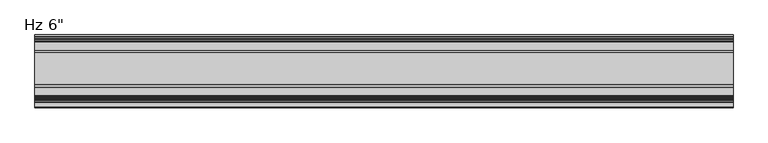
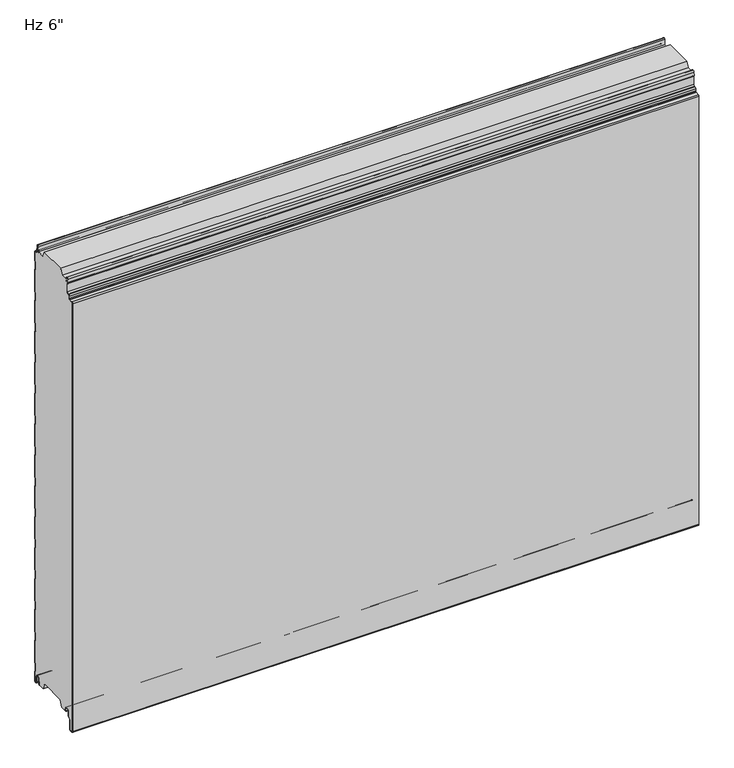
"""IFC4 building model written with IfcOpenShell, lengths in millimetres: plate geometry."""

from ifc_helpers import new_model, si_unit, point, frame, frame_2d, origin, place, context, project, spatial, polyline, circle_curve, trimmed, segment, composite_curve, outline, extrude, source, transform, mapped, element, save


def plate_2533484a(model_context):
    return source(origin(), model_context, "Body", "SweptSolid", [
        extrude(outline(composite_curve([segment(trimmed(circle_curve(frame_2d((-127.6545168, 7.3245305)), 3.3499999), [point((-124.3045169, 7.3245305))], [point((-127.6545168, 10.6745305))], True, "CARTESIAN"), True, "CONTINUOUS"), segment(polyline([(-127.6545168, 10.6745305), (-132.0545166, 10.6745305)]), True, "CONTINUOUS"), segment(trimmed(circle_curve(frame_2d((-132.0545166, 7.3245305)), 3.3499999), [point((-132.0545166, 10.6745305))], [point((-135.4045165, 7.3245305))], True, "CARTESIAN"), True, "CONTINUOUS"), segment(polyline([(-135.4045165, 7.3245305), (-135.4045165, -4.4863817)]), True, "CONTINUOUS"), segment(trimmed(circle_curve(frame_2d((-137.1045165, -4.4863817)), 1.7), [point((-135.4045165, -4.4863817))], [point((-135.902435, -5.6884632))], False, "CARTESIAN"), True, "CONTINUOUS"), segment(polyline([(-135.902435, -5.6884632), (-140.6429939, -10.4290221)]), True, "CONTINUOUS"), segment(trimmed(circle_curve(frame_2d((-138.8045163, -12.2674998)), 2.6), [point((-140.6429939, -10.4290221))], [point((-141.4045163, -12.2674998))], True, "CARTESIAN"), True, "CONTINUOUS"), segment(polyline([(-141.4045163, -12.2674998), (-141.4045163, -33.274257)]), True, "CONTINUOUS"), segment(trimmed(circle_curve(frame_2d((-144.1045163, -33.274257)), 2.7), [point((-141.4045163, -33.274257))], [point((-143.8689835, -35.9639641))], False, "CARTESIAN"), True, "CONTINUOUS"), segment(polyline([(-143.8689835, -35.9639641), (-148.6159721, -36.3796493)]), True, "CONTINUOUS"), segment(trimmed(circle_curve(frame_2d((-148.8393488, -33.8287598)), 2.5606512), [point((-148.6159721, -36.3796493))], [point((-151.4, -33.8287598))], False, "CARTESIAN"), True, "CONTINUOUS"), segment(polyline([(-151.4, -33.8287598), (-151.4, 1021.0519049)]), True, "CONTINUOUS"), segment(trimmed(circle_curve(frame_2d((-149.5102824, 1021.0519049)), 1.8897176), [point((-151.4, 1021.0519049))], [point((-149.6750281, 1022.9344276))], False, "CARTESIAN"), True, "CONTINUOUS"), segment(polyline([(-149.6750281, 1022.9344276), (-141.1438082, 1023.6810226)]), True, "CONTINUOUS"), segment(trimmed(circle_curve(frame_2d((-141.4077531, 1026.6970773)), 3.027582), [point((-141.1438082, 1023.6810226))], [point((-139.5647769, 1024.2950591))], True, "CARTESIAN"), True, "CONTINUOUS"), segment(trimmed(circle_curve(frame_2d((-141.3909631, 1026.6751943)), 3.0), [point((-139.5647769, 1024.2950591))], [point((-138.3909787, 1026.6848525))], True, "CARTESIAN"), True, "CONTINUOUS"), segment(polyline([(-138.3909787, 1026.6848525), (-138.3909787, 1032.044966)]), True, "CONTINUOUS"), segment(trimmed(circle_curve(frame_2d((-136.5909787, 1032.044966)), 1.8), [point((-138.3909787, 1032.044966))], [point((-136.5909787, 1033.844966))], False, "CARTESIAN"), True, "CONTINUOUS"), segment(polyline([(-136.5909787, 1033.844966), (-134.300418, 1033.844966)]), True, "CONTINUOUS"), segment(trimmed(circle_curve(frame_2d((-134.300418, 1037.844966)), 4.0), [point((-134.300418, 1033.844966))], [point((-130.300418, 1037.844966))], True, "CARTESIAN"), True, "CONTINUOUS"), segment(polyline([(-130.300418, 1037.844966), (-130.300418, 1057.3824408)]), True, "CONTINUOUS"), segment(trimmed(circle_curve(frame_2d((-132.900418, 1057.3824408)), 2.6), [point((-130.300418, 1057.3824408))], [point((-131.1919416, 1059.3423154))], True, "CARTESIAN"), True, "CONTINUOUS"), segment(polyline([(-131.1919416, 1059.3423154), (-132.2769402, 1060.2881384), (-131.9263694, 1069.143097)]), True, "CONTINUOUS"), segment(trimmed(circle_curve(frame_2d((-129.8261346, 1069.059948)), 2.10188), [point((-131.9263694, 1069.143097))], [point((-127.7257796, 1069.1400009))], False, "CARTESIAN"), True, "CONTINUOUS"), segment(polyline([(-127.7257796, 1069.1400009), (-127.2370324, 1061.1295249), (-126.2388885, 1061.1904252), (-126.5157133, 1065.7275311), (-109.6948412, 1065.7275311), (-104.5615374, 1078.9274638), (-37.6469837, 1078.9274638), (-32.5136753, 1065.7275311), (-15.2947081, 1065.7275311), (-15.4069152, 1064.1283001), (-14.4093676, 1064.058309), (-13.4643757, 1077.5268011)]), True, "CONTINUOUS"), segment(trimmed(circle_curve(frame_2d((-11.7334815, 1077.4116442)), 1.7347206), [point((-13.4643757, 1077.5268011))], [point((-10.0073134, 1077.5836892))], False, "CARTESIAN"), True, "CONTINUOUS"), segment(polyline([(-10.0073134, 1077.5836892), (-8.4976379, 1063.0309438)]), True, "CONTINUOUS"), segment(trimmed(circle_curve(frame_2d((-4.0912842, 1063.4880509)), 4.43), [point((-8.4976379, 1063.0309438))], [point((-4.0912842, 1059.0580509))], True, "CARTESIAN"), True, "CONTINUOUS"), segment(polyline([(-4.0912842, 1059.0580509), (-2.3999791, 1059.0580509)]), True, "CONTINUOUS"), segment(trimmed(circle_curve(frame_2d((-2.3999791, 1057.6580509)), 1.4), [point((-2.3999791, 1059.0580509))], [point((-0.9999791, 1057.6580509))], False, "CARTESIAN"), True, "CONTINUOUS"), segment(polyline([(-0.9999791, 1057.6580509), (-0.9999791, 1034.7726138), (-2.2002307, 1033.5723621), (-2.2002307, 1013.9369024), (-1.0, 1012.7366717), (-1.0, 958.5891837), (-2.2002307, 957.3889529), (-2.2002307, 937.7534932), (-1.0, 936.5532625), (-1.0, 882.4057744), (-2.2002307, 881.2055437), (-2.2002307, 861.570084), (-1.0, 860.3698532), (-1.0, 806.2223652), (-2.2002307, 805.0221345), (-2.2002307, 785.3866748), (-1.0, 784.186444), (-1.0, 730.0225176), (-2.2002307, 728.8222869), (-2.2002307, 709.1868272), (-1.0, 707.9865964), (-1.0, 653.8391084), (-2.2002307, 652.6388777), (-2.2002307, 633.0034179), (-1.0, 631.8031872), (-1.0, 577.6556992), (-2.2002307, 576.4554684), (-2.2002307, 556.8200087), (-1.0, 555.619778), (-1.0, 501.4558516), (-2.2002307, 500.2556208), (-2.2002307, 480.6201611), (-1.0, 479.4199304), (-1.0, 425.2724424), (-2.2002307, 424.0722116), (-2.2002307, 404.4367519), (-1.0, 403.2365211), (-1.0, 349.0890331), (-2.2002307, 347.8888024), (-2.2002307, 328.2533427), (-1.0, 327.0531119), (-1.0, 272.8891855), (-2.2002307, 271.6889548), (-2.2002307, 252.0534951), (-1.0, 250.8532643), (-1.0, 196.7057763), (-2.2002307, 195.5055456), (-2.2002307, 175.8700858), (-1.0, 174.6698551), (-1.0, 120.5223671), (-2.2002307, 119.3221364), (-2.2002307, 99.6866766), (-1.0, 98.4864459), (-1.0, 44.3225195), (-2.2002307, 43.1222888), (-2.2002307, 23.486829), (-1.0000103, 22.2866086), (-1.0000103, -0.3839769)]), True, "CONTINUOUS"), segment(trimmed(circle_curve(frame_2d((-2.3984828, -0.4487243)), 1.3999705), [point((-1.0000103, -0.3839769))], [point((-2.3984828, -1.8486949))], False, "CARTESIAN"), True, "CONTINUOUS"), segment(polyline([(-2.3984828, -1.8486949), (-3.9515996, -1.8486949)]), True, "CONTINUOUS"), segment(trimmed(circle_curve(frame_2d((-3.9515996, 0.3613604)), 2.2100553), [point((-3.9515996, -1.8486949))], [point((-6.1616549, 0.3613604))], False, "CARTESIAN"), True, "CONTINUOUS"), segment(polyline([(-6.1616549, 0.3613604), (-6.1616549, 13.8905885)]), True, "CONTINUOUS"), segment(trimmed(circle_curve(frame_2d((-9.881641, 13.8905885)), 3.7199861), [point((-6.1616549, 13.8905885))], [point((-9.881641, 17.6105746))], True, "CARTESIAN"), True, "CONTINUOUS"), segment(polyline([(-9.881641, 17.6105746), (-13.5282389, 17.6105746)]), True, "CONTINUOUS"), segment(trimmed(circle_curve(frame_2d((-13.5282389, 13.8905782)), 3.7199964), [point((-13.5282389, 17.6105746))], [point((-17.2482353, 13.8905782))], True, "CARTESIAN"), True, "CONTINUOUS"), segment(polyline([(-17.2482353, 13.8905782), (-17.2482353, 7.5454603), (-18.1704184, 7.7080661), (-19.2730843, 1.454537)]), True, "CONTINUOUS"), segment(trimmed(circle_curve(frame_2d((-17.7722363, 1.189897)), 1.524001), [point((-19.2730843, 1.454537))], [point((-18.7244571, 0.0))], True, "CARTESIAN"), True, "CONTINUOUS"), segment(polyline([(-18.7244571, 0.0), (-33.5050578, 0.0), (-39.1301019, 14.9979533), (-102.5686066, 14.9979533), (-108.1928342, 0.0), (-123.2748213, 0.0)]), True, "CONTINUOUS"), segment(trimmed(circle_curve(frame_2d((-124.1060323, 0.8654988)), 1.2), [point((-123.2748213, 0.0))], [point((-122.9060333, 0.8670134))], True, "CARTESIAN"), True, "CONTINUOUS"), segment(polyline([(-122.9060333, 0.8670134), (-122.9060333, 4.6254142), (-124.3045169, 4.6254142), (-124.3045169, 7.3245305)]), True, "CONTINUOUS")], self_intersect=False)), frame((-730.0, 0.0, 0.0), z_axis=(1.0, 0.0, 0.0), x_axis=(0.0, 1.0, 0.0)), (0.0, 0.0, 1.0), 1460.0),
        extrude(outline(composite_curve([segment(trimmed(circle_curve(frame_2d((-2.3984828, -0.4487243)), 2.3999705), [point((-1.03e-05, -0.3639402))], [point((-2.3984828, -2.8486949))], False, "CARTESIAN"), True, "CONTINUOUS"), segment(polyline([(-2.3984828, -2.8486949), (-3.9515996, -2.8486949)]), True, "CONTINUOUS"), segment(trimmed(circle_curve(frame_2d((-3.9515996, 0.3613604)), 3.2100553), [point((-3.9515996, -2.8486949))], [point((-7.1616549, 0.3613604))], False, "CARTESIAN"), True, "CONTINUOUS"), segment(polyline([(-7.1616549, 0.3613604), (-7.1616549, 13.8905885)]), True, "CONTINUOUS"), segment(trimmed(circle_curve(frame_2d((-9.881641, 13.8905885)), 2.7199861), [point((-7.1616549, 13.8905885))], [point((-9.881641, 16.6105746))], True, "CARTESIAN"), True, "CONTINUOUS"), segment(polyline([(-9.881641, 16.6105746), (-13.5282389, 16.6105746)]), True, "CONTINUOUS"), segment(trimmed(circle_curve(frame_2d((-13.5282389, 13.8905782)), 2.7199964), [point((-13.5282389, 16.6105746))], [point((-16.2482353, 13.8905782))], True, "CARTESIAN"), True, "CONTINUOUS"), segment(polyline([(-16.2482353, 13.8905782), (-16.2482353, 1.189897)]), True, "CONTINUOUS"), segment(trimmed(circle_curve(frame_2d((-17.7722363, 1.189897)), 1.524001), [point((-16.2482353, 1.189897))], [point((-19.2730843, 1.454537))], False, "CARTESIAN"), True, "CONTINUOUS"), segment(polyline([(-19.2730843, 1.454537), (-18.1704184, 7.7080661), (-17.2482353, 7.5454603), (-17.2482353, 13.8905782)]), True, "CONTINUOUS"), segment(trimmed(circle_curve(frame_2d((-13.5282389, 13.8905782)), 3.7199964), [point((-17.2482353, 13.8905782))], [point((-13.5282389, 17.6105746))], False, "CARTESIAN"), True, "CONTINUOUS"), segment(polyline([(-13.5282389, 17.6105746), (-9.881641, 17.6105746)]), True, "CONTINUOUS"), segment(trimmed(circle_curve(frame_2d((-9.881641, 13.8905885)), 3.7199861), [point((-9.881641, 17.6105746))], [point((-6.1616549, 13.8905885))], False, "CARTESIAN"), True, "CONTINUOUS"), segment(polyline([(-6.1616549, 13.8905885), (-6.1616549, 0.3613604)]), True, "CONTINUOUS"), segment(trimmed(circle_curve(frame_2d((-3.9515996, 0.3613604)), 2.2100553), [point((-6.1616549, 0.3613604))], [point((-3.9515996, -1.8486949))], True, "CARTESIAN"), True, "CONTINUOUS"), segment(polyline([(-3.9515996, -1.8486949), (-2.3984828, -1.8486949)]), True, "CONTINUOUS"), segment(trimmed(circle_curve(frame_2d((-2.3984828, -0.4487243)), 1.3999705), [point((-2.3984828, -1.8486949))], [point((-1.0000103, -0.3839769))], True, "CARTESIAN"), True, "CONTINUOUS"), segment(polyline([(-1.0000103, -0.3839769), (-1.0000103, 22.2866086), (-2.2002307, 23.486829), (-2.2002307, 43.1222888), (-1.0, 44.3225195), (-1.0, 98.4864459), (-2.2002307, 99.6866766), (-2.2002307, 119.3221364), (-1.0, 120.5223671), (-1.0, 174.6698551), (-2.2002307, 175.8700858), (-2.2002307, 195.5055456), (-1.0, 196.7057763), (-1.0, 250.8532643), (-2.2002307, 252.0534951), (-2.2002307, 271.6889548), (-1.0, 272.8891855), (-1.0, 327.0531119), (-2.2002307, 328.2533427), (-2.2002307, 347.8888024), (-1.0, 349.0890331), (-1.0, 403.2365211), (-2.2002307, 404.4367519), (-2.2002307, 424.0722116), (-1.0, 425.2724424), (-1.0, 479.4199304), (-2.2002307, 480.6201611), (-2.2002307, 500.2556208), (-1.0, 501.4558516), (-1.0, 555.619778), (-2.2002307, 556.8200087), (-2.2002307, 576.4554684), (-1.0, 577.6556992), (-1.0, 631.8031872), (-2.2002307, 633.0034179), (-2.2002307, 652.6388777), (-1.0, 653.8391084), (-1.0, 707.9865964), (-2.2002307, 709.1868272), (-2.2002307, 728.8222869), (-1.0, 730.0225176), (-1.0, 784.186444), (-2.2002307, 785.3866748), (-2.2002307, 805.0221345), (-1.0, 806.2223652), (-1.0, 860.3698532), (-2.2002307, 861.570084), (-2.2002307, 881.2055437), (-1.0, 882.4057744), (-1.0, 936.5532625), (-2.2002307, 937.7534932), (-2.2002307, 957.3889529), (-1.0, 958.5891837), (-1.0, 1012.7366717), (-2.2002307, 1013.9369024), (-2.2002307, 1033.5723621), (-0.9999791, 1034.7726138), (-0.9999791, 1057.6580509)]), True, "CONTINUOUS"), segment(trimmed(circle_curve(frame_2d((-2.3999791, 1057.6580509)), 1.4), [point((-0.9999791, 1057.6580509))], [point((-2.3999791, 1059.0580509))], True, "CARTESIAN"), True, "CONTINUOUS"), segment(polyline([(-2.3999791, 1059.0580509), (-4.0912842, 1059.0580509)]), True, "CONTINUOUS"), segment(trimmed(circle_curve(frame_2d((-4.0912842, 1063.4880509)), 4.43), [point((-4.0912842, 1059.0580509))], [point((-8.4976379, 1063.0309438))], False, "CARTESIAN"), True, "CONTINUOUS"), segment(polyline([(-8.4976379, 1063.0309438), (-10.0073134, 1077.5836892)]), True, "CONTINUOUS"), segment(trimmed(circle_curve(frame_2d((-11.7334815, 1077.4116442)), 1.7347206), [point((-10.0073134, 1077.5836892))], [point((-13.4643757, 1077.5268011))], True, "CARTESIAN"), True, "CONTINUOUS"), segment(polyline([(-13.4643757, 1077.5268011), (-14.4093676, 1064.058309), (-15.4069152, 1064.1283001), (-14.4620355, 1077.5951929)]), True, "CONTINUOUS"), segment(trimmed(circle_curve(frame_2d((-11.7334815, 1077.4116442)), 2.7347206), [point((-14.4620355, 1077.5951929))], [point((-9.0124669, 1077.6850974))], False, "CARTESIAN"), True, "CONTINUOUS"), segment(polyline([(-9.0124669, 1077.6850974), (-7.5029757, 1063.1341282)]), True, "CONTINUOUS"), segment(trimmed(circle_curve(frame_2d((-4.0912842, 1063.4880509)), 3.43), [point((-7.5029757, 1063.1341282))], [point((-4.0912842, 1060.0580509))], True, "CARTESIAN"), True, "CONTINUOUS"), segment(polyline([(-4.0912842, 1060.0580509), (-2.3999791, 1060.0580509)]), True, "CONTINUOUS"), segment(trimmed(circle_curve(frame_2d((-2.3999791, 1057.6580509)), 2.4), [point((-2.3999791, 1060.0580509))], [point((2.09e-05, 1057.6580509))], False, "CARTESIAN"), True, "CONTINUOUS"), segment(polyline([(2.09e-05, 1057.6580509), (2.09e-05, 1034.3584002), (-1.2002307, 1033.1581486), (-1.2002307, 1014.351116), (0.0, 1013.1508852), (0.0, 958.1749701), (-1.2002307, 956.9747394), (-1.2002307, 938.1677068), (0.0, 936.967476), (0.0, 881.9915609), (-1.2002307, 880.7913301), (-1.2002307, 861.9842975), (0.0, 860.7840668), (0.0, 805.8081517), (-1.2002307, 804.6079209), (-1.2002307, 785.8008883), (0.0, 784.6006576), (0.0, 729.6083041), (-1.2002307, 728.4080733), (-1.2002307, 709.6010407), (0.0, 708.40081), (0.0, 653.4248948), (-1.2002307, 652.2246641), (-1.2002307, 633.4176315), (0.0, 632.2174008), (0.0, 577.2414856), (-1.2002307, 576.0412549), (-1.2002307, 557.2342223), (0.0, 556.0339915), (0.0, 501.041638), (-1.2002307, 499.8414073), (-1.2002307, 481.0343747), (0.0, 479.8341439), (0.0, 424.8582288), (-1.2002307, 423.6579981), (-1.2002307, 404.8509654), (0.0, 403.6507347), (0.0, 348.6748196), (-1.2002307, 347.4745888), (-1.2002307, 328.6675562), (0.0, 327.4673255), (0.0, 272.474972), (-1.2002307, 271.2747412), (-1.2002307, 252.4677086), (0.0, 251.2674779), (0.0, 196.2915628), (-1.2002307, 195.091332), (-1.2002307, 176.2842994), (0.0, 175.0840687), (0.0, 120.1081535), (-1.2002307, 118.9079228), (-1.2002307, 100.1008902), (0.0, 98.9006594), (0.0, 43.9083059), (-1.2002307, 42.7080752), (-1.2002307, 23.9010426), (-1.03e-05, 22.7008222), (-1.03e-05, -0.3639402)]), True, "CONTINUOUS")], self_intersect=False)), frame((-730.0, 0.0, 0.0), z_axis=(1.0, 0.0, 0.0), x_axis=(0.0, 1.0, 0.0)), (0.0, 0.0, 1.0), 1460.0),
        extrude(outline(composite_curve([segment(trimmed(circle_curve(frame_2d((-124.1060323, 0.8654988)), 1.2), [point((-122.9060333, 0.8670134))], [point((-125.3045169, 0.8052116))], False, "CARTESIAN"), True, "CONTINUOUS"), segment(polyline([(-125.3045169, 0.8052116), (-125.3045169, 7.3245305)]), True, "CONTINUOUS"), segment(trimmed(circle_curve(frame_2d((-127.6545168, 7.3245305)), 2.3499999), [point((-125.3045169, 7.3245305))], [point((-127.6545168, 9.6745305))], True, "CARTESIAN"), True, "CONTINUOUS"), segment(polyline([(-127.6545168, 9.6745305), (-132.0545166, 9.6745305)]), True, "CONTINUOUS"), segment(trimmed(circle_curve(frame_2d((-132.0545166, 7.3245305)), 2.3499999), [point((-132.0545166, 9.6745305))], [point((-134.4045165, 7.3245305))], True, "CARTESIAN"), True, "CONTINUOUS"), segment(polyline([(-134.4045165, 7.3245305), (-134.4045165, -4.4863817)]), True, "CONTINUOUS"), segment(trimmed(circle_curve(frame_2d((-137.1045165, -4.4863817)), 2.7), [point((-134.4045165, -4.4863817))], [point((-135.1953282, -6.39557))], False, "CARTESIAN"), True, "CONTINUOUS"), segment(polyline([(-135.1953282, -6.39557), (-139.9358871, -11.1361289)]), True, "CONTINUOUS"), segment(trimmed(circle_curve(frame_2d((-138.8045163, -12.2674998)), 1.6), [point((-139.9358871, -11.1361289))], [point((-140.4045163, -12.2674998))], True, "CARTESIAN"), True, "CONTINUOUS"), segment(polyline([(-140.4045163, -12.2674998), (-140.4045163, -33.274257)]), True, "CONTINUOUS"), segment(trimmed(circle_curve(frame_2d((-144.1045163, -33.274257)), 3.7), [point((-140.4045163, -33.274257))], [point((-143.7817491, -36.960152))], False, "CARTESIAN"), True, "CONTINUOUS"), segment(polyline([(-143.7817491, -36.960152), (-148.5287377, -37.3758371)]), True, "CONTINUOUS"), segment(trimmed(circle_curve(frame_2d((-148.8393488, -33.8287598)), 3.5606512), [point((-148.5287377, -37.3758371))], [point((-152.4, -33.8287598))], False, "CARTESIAN"), True, "CONTINUOUS"), segment(polyline([(-152.4, -33.8287598), (-152.4, 1021.0519049)]), True, "CONTINUOUS"), segment(trimmed(circle_curve(frame_2d((-149.5102824, 1021.0519049)), 2.8897176), [point((-152.4, 1021.0519049))], [point((-149.7622082, 1023.9306201))], False, "CARTESIAN"), True, "CONTINUOUS"), segment(polyline([(-149.7622082, 1023.9306201), (-141.2309883, 1024.6772152)]), True, "CONTINUOUS"), segment(trimmed(circle_curve(frame_2d((-141.4077531, 1026.6970773)), 2.027582), [point((-141.2309883, 1024.6772152))], [point((-140.1735057, 1025.0884375))], True, "CARTESIAN"), True, "CONTINUOUS"), segment(trimmed(circle_curve(frame_2d((-141.3909631, 1026.6751943)), 2.0), [point((-140.1735057, 1025.0884375))], [point((-139.3909787, 1026.6830802))], True, "CARTESIAN"), True, "CONTINUOUS"), segment(polyline([(-139.3909787, 1026.6830802), (-139.3909787, 1032.044966)]), True, "CONTINUOUS"), segment(trimmed(circle_curve(frame_2d((-136.5909787, 1032.044966)), 2.8), [point((-139.3909787, 1032.044966))], [point((-136.5909787, 1034.844966))], False, "CARTESIAN"), True, "CONTINUOUS"), segment(polyline([(-136.5909787, 1034.844966), (-134.300418, 1034.844966)]), True, "CONTINUOUS"), segment(trimmed(circle_curve(frame_2d((-134.300418, 1037.844966)), 3.0), [point((-134.300418, 1034.844966))], [point((-131.300418, 1037.844966))], True, "CARTESIAN"), True, "CONTINUOUS"), segment(polyline([(-131.300418, 1037.844966), (-131.300418, 1057.3824408)]), True, "CONTINUOUS"), segment(trimmed(circle_curve(frame_2d((-132.900418, 1057.3824408)), 1.6), [point((-131.300418, 1057.3824408))], [point((-131.8490479, 1058.5885175))], True, "CARTESIAN"), True, "CONTINUOUS"), segment(polyline([(-131.8490479, 1058.5885175), (-133.2951059, 1059.8490858), (-132.9255866, 1069.1826564)]), True, "CONTINUOUS"), segment(trimmed(circle_curve(frame_2d((-129.8261346, 1069.059948)), 3.10188), [point((-132.9255866, 1069.1826564))], [point((-126.7270077, 1069.1906064))], False, "CARTESIAN"), True, "CONTINUOUS"), segment(polyline([(-126.7270077, 1069.1906064), (-126.2388885, 1061.1904252), (-127.2370324, 1061.1295249), (-127.7257796, 1069.1400009)]), True, "CONTINUOUS"), segment(trimmed(circle_curve(frame_2d((-129.8261346, 1069.059948)), 2.10188), [point((-127.7257796, 1069.1400009))], [point((-131.9263694, 1069.143097))], True, "CARTESIAN"), True, "CONTINUOUS"), segment(polyline([(-131.9263694, 1069.143097), (-132.2769402, 1060.2881384), (-131.1919416, 1059.3423154)]), True, "CONTINUOUS"), segment(trimmed(circle_curve(frame_2d((-132.900418, 1057.3824408)), 2.6), [point((-131.1919416, 1059.3423154))], [point((-130.300418, 1057.3824408))], False, "CARTESIAN"), True, "CONTINUOUS"), segment(polyline([(-130.300418, 1057.3824408), (-130.300418, 1037.844966)]), True, "CONTINUOUS"), segment(trimmed(circle_curve(frame_2d((-134.300418, 1037.844966)), 4.0), [point((-130.300418, 1037.844966))], [point((-134.300418, 1033.844966))], False, "CARTESIAN"), True, "CONTINUOUS"), segment(polyline([(-134.300418, 1033.844966), (-136.5909787, 1033.844966)]), True, "CONTINUOUS"), segment(trimmed(circle_curve(frame_2d((-136.5909787, 1032.044966)), 1.8), [point((-136.5909787, 1033.844966))], [point((-138.3909787, 1032.044966))], True, "CARTESIAN"), True, "CONTINUOUS"), segment(polyline([(-138.3909787, 1032.044966), (-138.3909787, 1026.6848525)]), True, "CONTINUOUS"), segment(trimmed(circle_curve(frame_2d((-141.3909631, 1026.6751943)), 3.0), [point((-138.3909787, 1026.6848525))], [point((-139.5647769, 1024.2950591))], False, "CARTESIAN"), True, "CONTINUOUS"), segment(trimmed(circle_curve(frame_2d((-141.4077531, 1026.6970773)), 3.027582), [point((-139.5647769, 1024.2950591))], [point((-141.1438082, 1023.6810226))], False, "CARTESIAN"), True, "CONTINUOUS"), segment(polyline([(-141.1438082, 1023.6810226), (-149.6750281, 1022.9344276)]), True, "CONTINUOUS"), segment(trimmed(circle_curve(frame_2d((-149.5102824, 1021.0519049)), 1.8897176), [point((-149.6750281, 1022.9344276))], [point((-151.4, 1021.0519049))], True, "CARTESIAN"), True, "CONTINUOUS"), segment(polyline([(-151.4, 1021.0519049), (-151.4, -33.8287598)]), True, "CONTINUOUS"), segment(trimmed(circle_curve(frame_2d((-148.8393488, -33.8287598)), 2.5606512), [point((-151.4, -33.8287598))], [point((-148.6159721, -36.3796493))], True, "CARTESIAN"), True, "CONTINUOUS"), segment(polyline([(-148.6159721, -36.3796493), (-143.8689835, -35.9639641)]), True, "CONTINUOUS"), segment(trimmed(circle_curve(frame_2d((-144.1045163, -33.274257)), 2.7), [point((-143.8689835, -35.9639641))], [point((-141.4045163, -33.274257))], True, "CARTESIAN"), True, "CONTINUOUS"), segment(polyline([(-141.4045163, -33.274257), (-141.4045163, -12.2674998)]), True, "CONTINUOUS"), segment(trimmed(circle_curve(frame_2d((-138.8045163, -12.2674998)), 2.6), [point((-141.4045163, -12.2674998))], [point((-140.6429939, -10.4290221))], False, "CARTESIAN"), True, "CONTINUOUS"), segment(polyline([(-140.6429939, -10.4290221), (-135.902435, -5.6884632)]), True, "CONTINUOUS"), segment(trimmed(circle_curve(frame_2d((-137.1045165, -4.4863817)), 1.7), [point((-135.902435, -5.6884632))], [point((-135.4045165, -4.4863817))], True, "CARTESIAN"), True, "CONTINUOUS"), segment(polyline([(-135.4045165, -4.4863817), (-135.4045165, 7.3245305)]), True, "CONTINUOUS"), segment(trimmed(circle_curve(frame_2d((-132.0545166, 7.3245305)), 3.3499999), [point((-135.4045165, 7.3245305))], [point((-132.0545166, 10.6745305))], False, "CARTESIAN"), True, "CONTINUOUS"), segment(polyline([(-132.0545166, 10.6745305), (-127.6545168, 10.6745305)]), True, "CONTINUOUS"), segment(trimmed(circle_curve(frame_2d((-127.6545168, 7.3245305)), 3.3499999), [point((-127.6545168, 10.6745305))], [point((-124.3045169, 7.3245305))], False, "CARTESIAN"), True, "CONTINUOUS"), segment(polyline([(-124.3045169, 7.3245305), (-124.3045169, 4.6254142), (-122.9060333, 4.6254142), (-122.9060333, 0.8670134)]), True, "CONTINUOUS")], self_intersect=False)), frame((-730.0, 0.0, 0.0), z_axis=(1.0, 0.0, 0.0), x_axis=(0.0, 1.0, 0.0)), (0.0, 0.0, 1.0), 1460.0),
    ])


if __name__ == "__main__":
    model = new_model("IFC4")
    model_context = context("Model", 3, world=origin())
    ifc_project = project(units=[si_unit("LENGTHUNIT", "METRE", prefix="MILLI")], contexts=[model_context])
    site = spatial("IfcSite", under=ifc_project)
    building = spatial("IfcBuilding", under=site)
    placement = place(None, origin())
    plate_shape = plate_2533484a(model_context)
    element("IfcPlate", 1, ObjectType="KIP-42-KRHF-R19-CP-Hz-FL_SL : Hz 6\"", at=placement, inside=building, context=model_context, shape_type="MappedRepresentation", body=[
        mapped(plate_shape, transform((0.0, 0.0, 0.0), x_axis=(1.0, 0.0, 0.0), y_axis=(0.0, 1.0, 0.0), z_axis=(0.0, 0.0, 1.0))),
    ])
    save(model, "model.ifc")
